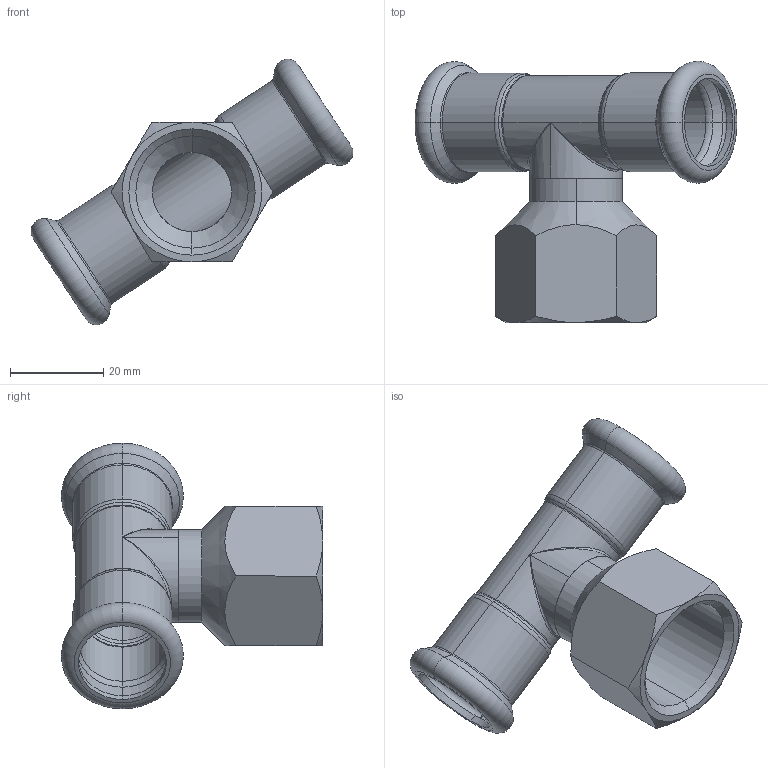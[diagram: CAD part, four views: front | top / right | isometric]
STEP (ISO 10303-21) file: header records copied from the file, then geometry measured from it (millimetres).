
FILE_DESCRIPTION (( 'STEP AP203' ), '1' );
FILE_NAME ('GDA5243.STEP', '2019-01-10T05:15:02', ( '' ), ( '' ), 'SwSTEP 2.0', 'SolidWorks 2015', '' );
FILE_SCHEMA (( 'CONFIG_CONTROL_DESIGN' ));
Length unit declared in the file: millimetre
Products named in the file (3): GDA5243; ITCT18｡ﾁ?; ITC-I-03-18℅?
Assembly tree (2 placements, depth 2):
  GDA5243
    ITC-I-03-18℅?
    ITCT18｡ﾁ?
Bounding box: 69.13 x 56.1 x 57.01 mm (x, y, z)
Volume: 14861.3 mm3; surface area: 15015.5 mm2
Topology: 2 solids, 2 shells, 105 faces, 222 edges, 114 vertices
Faces by surface type: torus 32, cone 28, cylinder 28, plane 13, bspline 4
Entity records: 3461 total; most frequent: CARTESIAN_POINT 954, DIRECTION 526, ORIENTED_EDGE 428, AXIS2_PLACEMENT_3D 234, EDGE_CURVE 214, CIRCLE 128, VERTEX_POINT 114, EDGE_LOOP 112
